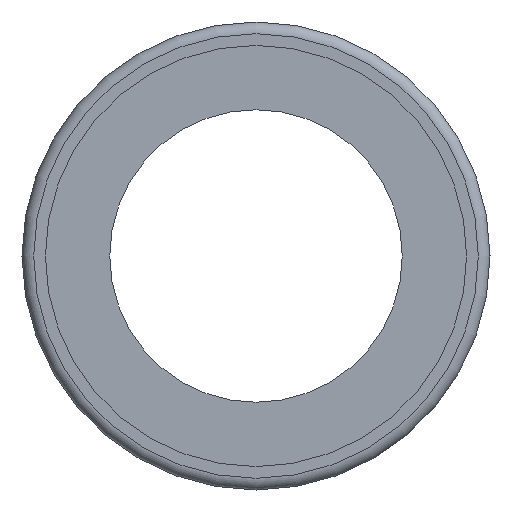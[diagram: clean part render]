
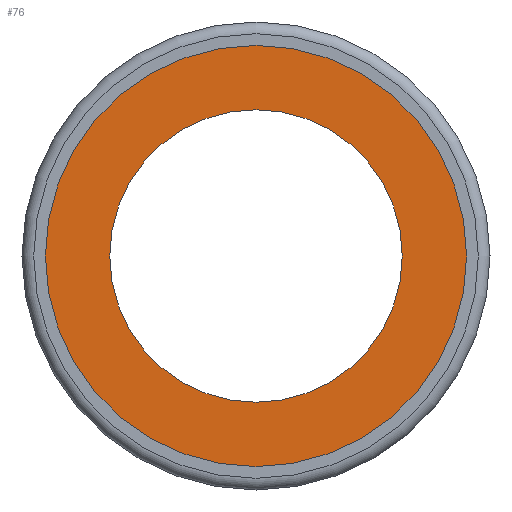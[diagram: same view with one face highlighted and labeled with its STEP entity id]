
A CAD part, left-side view. The second image highlights one B-rep face of the part: STEP entity #76.
In plain terms, the highlighted planar face has unit normal (-1, 0, 0).
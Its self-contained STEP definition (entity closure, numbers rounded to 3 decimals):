
#76=ADVANCED_FACE('',(#238,#240),#242,.T.);
#238=FACE_BOUND('',#239,.T.);
#239=EDGE_LOOP('',(#386));
#240=FACE_BOUND('',#241,.T.);
#241=EDGE_LOOP('',(#387));
#242=PLANE('',#243);
#243=AXIS2_PLACEMENT_3D('',#244,#245,#246);
#244=CARTESIAN_POINT('',(1.,0.,0.));
#245=DIRECTION('',(-1.,-0.,-0.));
#246=DIRECTION('',(0.,1.,0.));
#386=ORIENTED_EDGE('',*,*,#420,.F.);
#387=ORIENTED_EDGE('',*,*,#421,.T.);
#420=EDGE_CURVE('',#440,#440,#441,.T.);
#421=EDGE_CURVE('',#442,#442,#443,.T.);
#440=VERTEX_POINT('',#482);
#441=CIRCLE('',#483,18.);
#442=VERTEX_POINT('',#487);
#443=CIRCLE('',#488,12.5);
#482=CARTESIAN_POINT('',(1.,18.,0.));
#483=AXIS2_PLACEMENT_3D('',#484,#485,#486);
#484=CARTESIAN_POINT('',(1.,0.,0.));
#485=DIRECTION('',(1.,0.,0.));
#486=DIRECTION('',(0.,1.,0.));
#487=CARTESIAN_POINT('',(1.,12.5,0.));
#488=AXIS2_PLACEMENT_3D('',#489,#490,#491);
#489=CARTESIAN_POINT('',(1.,0.,0.));
#490=DIRECTION('',(1.,0.,0.));
#491=DIRECTION('',(0.,1.,0.));
